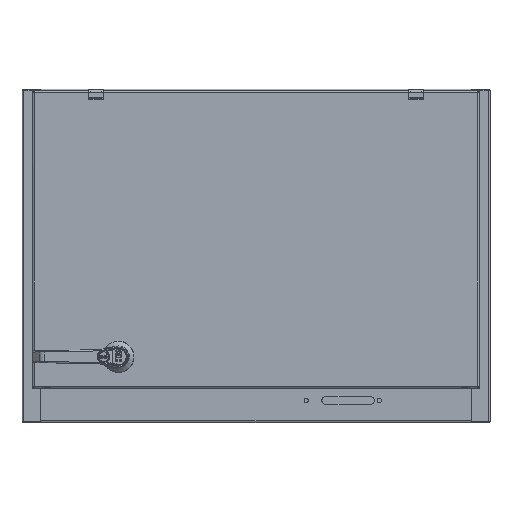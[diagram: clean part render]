
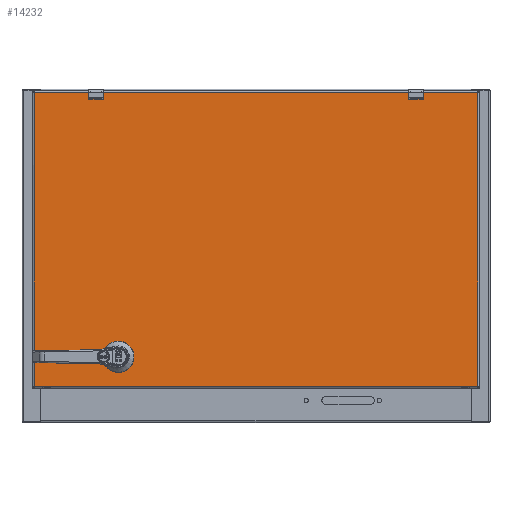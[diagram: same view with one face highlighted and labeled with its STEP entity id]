
A CAD part, top view. The second image highlights one B-rep face of the part: STEP entity #14232.
In plain terms, the highlighted planar face has unit normal (0, 0, 1).
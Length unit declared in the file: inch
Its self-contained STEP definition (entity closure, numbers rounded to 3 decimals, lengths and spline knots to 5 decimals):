
#10823=CARTESIAN_POINT('',(7.525,-9.915,0.));
#10824=DIRECTION('',(0.,0.,1.));
#10825=DIRECTION('',(-1.,0.,0.));
#10826=AXIS2_PLACEMENT_3D('',#10823,#10824,#10825);
#10831=CARTESIAN_POINT('',(7.525,-9.915,0.));
#10832=DIRECTION('',(0.,0.,1.));
#10833=DIRECTION('',(1.,0.,0.));
#10834=AXIS2_PLACEMENT_3D('',#10831,#10832,#10833);
#10839=DIRECTION('',(1.,0.,0.));
#10840=VECTOR('',#10839,0.39715);
#10841=CARTESIAN_POINT('',(7.32642,-8.429,0.));
#10842=LINE('',#10841,#10840);
#10846=CARTESIAN_POINT('',(7.525,-8.825,0.));
#10847=DIRECTION('',(0.,0.,1.));
#10848=DIRECTION('',(-0.448,0.894,0.));
#10849=AXIS2_PLACEMENT_3D('',#10846,#10847,#10848);
#10854=DIRECTION('',(0.,1.,0.));
#10855=VECTOR('',#10854,0.39715);
#10856=CARTESIAN_POINT('',(7.129,-9.02358,0.));
#10857=LINE('',#10856,#10855);
#10861=CARTESIAN_POINT('',(7.525,-8.825,0.));
#10862=DIRECTION('',(0.,0.,1.));
#10863=DIRECTION('',(-0.894,-0.448,0.));
#10864=AXIS2_PLACEMENT_3D('',#10861,#10862,#10863);
#10869=DIRECTION('',(-1.,0.,0.));
#10870=VECTOR('',#10869,0.39715);
#10871=CARTESIAN_POINT('',(7.72358,-9.221,0.));
#10872=LINE('',#10871,#10870);
#10876=CARTESIAN_POINT('',(7.525,-8.825,0.));
#10877=DIRECTION('',(0.,0.,1.));
#10878=DIRECTION('',(0.448,-0.894,0.));
#10879=AXIS2_PLACEMENT_3D('',#10876,#10877,#10878);
#10884=DIRECTION('',(0.,-1.,0.));
#10885=VECTOR('',#10884,0.39715);
#10886=CARTESIAN_POINT('',(7.921,-8.62642,0.));
#10887=LINE('',#10886,#10885);
#10891=CARTESIAN_POINT('',(7.525,-8.825,0.));
#10892=DIRECTION('',(0.,0.,1.));
#10893=DIRECTION('',(0.894,0.448,0.));
#10894=AXIS2_PLACEMENT_3D('',#10891,#10892,#10893);
#10899=DIRECTION('',(1.,0.,0.));
#10900=VECTOR('',#10899,0.3629);
#10901=CARTESIAN_POINT('',(-9.4205,-10.595,0.));
#10902=LINE('',#10901,#10900);
#10906=DIRECTION('',(0.,1.,0.));
#10907=VECTOR('',#10906,0.63);
#10908=CARTESIAN_POINT('',(-9.0276,-10.565,0.));
#10909=LINE('',#10908,#10907);
#10913=DIRECTION('',(1.,0.,0.));
#10914=VECTOR('',#10913,0.3629);
#10915=CARTESIAN_POINT('',(-9.4205,-9.905,0.));
#10916=LINE('',#10915,#10914);
#10920=DIRECTION('',(1.,0.,0.));
#10921=VECTOR('',#10920,0.3629);
#10922=CARTESIAN_POINT('',(-9.4205,9.905,0.));
#10923=LINE('',#10922,#10921);
#10927=DIRECTION('',(0.,1.,0.));
#10928=VECTOR('',#10927,0.63);
#10929=CARTESIAN_POINT('',(-9.0276,9.935,0.));
#10930=LINE('',#10929,#10928);
#10934=DIRECTION('',(1.,0.,0.));
#10935=VECTOR('',#10934,0.3629);
#10936=CARTESIAN_POINT('',(-9.4205,10.595,0.));
#10937=LINE('',#10936,#10935);
#11510=DIRECTION('',(0.,-1.,0.));
#11511=VECTOR('',#11510,28.416);
#11512=CARTESIAN_POINT('',(9.4205,14.208,0.));
#11513=LINE('',#11512,#11511);
#11584=DIRECTION('',(1.,0.,0.));
#11585=VECTOR('',#11584,18.841);
#11586=CARTESIAN_POINT('',(-9.4205,14.208,0.));
#11587=LINE('',#11586,#11585);
#11716=DIRECTION('',(0.,1.,0.));
#11717=VECTOR('',#11716,19.81);
#11718=CARTESIAN_POINT('',(-9.4205,-9.905,0.));
#11719=LINE('',#11718,#11717);
#11723=CARTESIAN_POINT('',(-9.4205,14.208,0.));
#11762=DIRECTION('',(0.,1.,0.));
#11763=VECTOR('',#11762,3.613);
#11764=CARTESIAN_POINT('',(-9.4205,10.595,0.));
#11765=LINE('',#11764,#11763);
#11838=DIRECTION('',(0.,1.,0.));
#11839=VECTOR('',#11838,3.613);
#11840=CARTESIAN_POINT('',(-9.4205,-14.208,0.));
#11841=LINE('',#11840,#11839);
#11859=CARTESIAN_POINT('',(-9.0576,-9.935,0.));
#11860=DIRECTION('',(0.,0.,-1.));
#11861=DIRECTION('',(0.,1.,0.));
#11862=AXIS2_PLACEMENT_3D('',#11859,#11860,#11861);
#11889=CARTESIAN_POINT('',(-9.0576,-10.565,0.));
#11890=DIRECTION('',(0.,0.,-1.));
#11891=DIRECTION('',(1.,0.,0.));
#11892=AXIS2_PLACEMENT_3D('',#11889,#11890,#11891);
#12231=DIRECTION('',(-1.,0.,0.));
#12232=VECTOR('',#12231,18.841);
#12233=CARTESIAN_POINT('',(9.4205,-14.208,0.));
#12234=LINE('',#12233,#12232);
#12492=CARTESIAN_POINT('',(-9.0576,9.935,0.));
#12493=DIRECTION('',(0.,0.,-1.));
#12494=DIRECTION('',(1.,0.,0.));
#12495=AXIS2_PLACEMENT_3D('',#12492,#12493,#12494);
#12522=CARTESIAN_POINT('',(-9.0576,10.565,0.));
#12523=DIRECTION('',(0.,0.,-1.));
#12524=DIRECTION('',(0.,1.,0.));
#12525=AXIS2_PLACEMENT_3D('',#12522,#12523,#12524);
#13747=CARTESIAN_POINT('',(9.4205,14.208,0.));
#13748=CARTESIAN_POINT('',(9.4205,-14.208,0.));
#13749=VERTEX_POINT('',#13747);
#13750=VERTEX_POINT('',#13748);
#13875=CARTESIAN_POINT('',(7.4,-9.915,0.));
#13876=CARTESIAN_POINT('',(7.65,-9.915,0.));
#13877=VERTEX_POINT('',#13875);
#13878=VERTEX_POINT('',#13876);
#13879=CARTESIAN_POINT('',(7.32642,-8.429,0.));
#13880=CARTESIAN_POINT('',(7.72358,-8.429,0.));
#13881=VERTEX_POINT('',#13879);
#13882=VERTEX_POINT('',#13880);
#13883=CARTESIAN_POINT('',(7.921,-8.62642,0.));
#13884=VERTEX_POINT('',#13883);
#13885=CARTESIAN_POINT('',(7.921,-9.02358,0.));
#13886=VERTEX_POINT('',#13885);
#13887=CARTESIAN_POINT('',(7.72358,-9.221,0.));
#13888=VERTEX_POINT('',#13887);
#13889=CARTESIAN_POINT('',(7.32642,-9.221,0.));
#13890=VERTEX_POINT('',#13889);
#13891=CARTESIAN_POINT('',(7.129,-9.02358,0.));
#13892=VERTEX_POINT('',#13891);
#13893=CARTESIAN_POINT('',(7.129,-8.62642,0.));
#13894=VERTEX_POINT('',#13893);
#13945=VERTEX_POINT('',#11723);
#13950=CARTESIAN_POINT('',(-9.4205,-14.208,0.));
#13952=VERTEX_POINT('',#13950);
#14073=CARTESIAN_POINT('',(-9.4205,10.595,0.));
#14075=VERTEX_POINT('',#14073);
#14077=CARTESIAN_POINT('',(-9.4205,9.905,0.));
#14079=VERTEX_POINT('',#14077);
#14089=CARTESIAN_POINT('',(-9.4205,-9.905,0.));
#14091=VERTEX_POINT('',#14089);
#14093=CARTESIAN_POINT('',(-9.4205,-10.595,0.));
#14095=VERTEX_POINT('',#14093);
#14105=CARTESIAN_POINT('',(-9.0576,10.595,0.));
#14107=VERTEX_POINT('',#14105);
#14109=CARTESIAN_POINT('',(-9.0276,10.565,0.));
#14111=VERTEX_POINT('',#14109);
#14113=CARTESIAN_POINT('',(-9.0276,9.935,0.));
#14115=VERTEX_POINT('',#14113);
#14117=CARTESIAN_POINT('',(-9.0576,9.905,0.));
#14119=VERTEX_POINT('',#14117);
#14137=CARTESIAN_POINT('',(-9.0576,-9.905,0.));
#14139=VERTEX_POINT('',#14137);
#14141=CARTESIAN_POINT('',(-9.0276,-9.935,0.));
#14143=VERTEX_POINT('',#14141);
#14145=CARTESIAN_POINT('',(-9.0276,-10.565,0.));
#14147=VERTEX_POINT('',#14145);
#14149=CARTESIAN_POINT('',(-9.0576,-10.595,0.));
#14151=VERTEX_POINT('',#14149);
#14169=CARTESIAN_POINT('',(0.,0.,0.));
#14170=DIRECTION('',(0.,0.,-1.));
#14171=DIRECTION('',(1.,0.,0.));
#14172=AXIS2_PLACEMENT_3D('',#14169,#14170,#14171);
#14173=PLANE('',#14172);
#14175=ORIENTED_EDGE('',*,*,#14174,.T.);
#14177=ORIENTED_EDGE('',*,*,#14176,.T.);
#14179=ORIENTED_EDGE('',*,*,#14178,.T.);
#14181=ORIENTED_EDGE('',*,*,#14180,.F.);
#14183=ORIENTED_EDGE('',*,*,#14182,.T.);
#14185=ORIENTED_EDGE('',*,*,#14184,.F.);
#14187=ORIENTED_EDGE('',*,*,#14186,.F.);
#14189=ORIENTED_EDGE('',*,*,#14188,.T.);
#14191=ORIENTED_EDGE('',*,*,#14190,.T.);
#14193=ORIENTED_EDGE('',*,*,#14192,.F.);
#14195=ORIENTED_EDGE('',*,*,#14194,.T.);
#14197=ORIENTED_EDGE('',*,*,#14196,.F.);
#14199=ORIENTED_EDGE('',*,*,#14198,.F.);
#14201=ORIENTED_EDGE('',*,*,#14200,.T.);
#14203=ORIENTED_EDGE('',*,*,#14202,.T.);
#14205=ORIENTED_EDGE('',*,*,#14204,.T.);
#14206=EDGE_LOOP('',(#14175,#14177,#14179,#14181,#14183,#14185,#14187,#14189,
#14191,#14193,#14195,#14197,#14199,#14201,#14203,#14205));
#14207=FACE_OUTER_BOUND('',#14206,.F.);
#14209=ORIENTED_EDGE('',*,*,#14208,.F.);
#14211=ORIENTED_EDGE('',*,*,#14210,.T.);
#14213=ORIENTED_EDGE('',*,*,#14212,.F.);
#14215=ORIENTED_EDGE('',*,*,#14214,.T.);
#14217=ORIENTED_EDGE('',*,*,#14216,.F.);
#14219=ORIENTED_EDGE('',*,*,#14218,.T.);
#14221=ORIENTED_EDGE('',*,*,#14220,.F.);
#14223=ORIENTED_EDGE('',*,*,#14222,.T.);
#14224=EDGE_LOOP('',(#14209,#14211,#14213,#14215,#14217,#14219,#14221,#14223));
#14225=FACE_BOUND('',#14224,.F.);
#14227=ORIENTED_EDGE('',*,*,#14226,.T.);
#14229=ORIENTED_EDGE('',*,*,#14228,.T.);
#14230=EDGE_LOOP('',(#14227,#14229));
#14231=FACE_BOUND('',#14230,.F.);
#10827=CIRCLE('',#10826,0.125);
#10835=CIRCLE('',#10834,0.125);
#10850=CIRCLE('',#10849,0.443);
#10865=CIRCLE('',#10864,0.443);
#10880=CIRCLE('',#10879,0.443);
#10895=CIRCLE('',#10894,0.443);
#11863=CIRCLE('',#11862,0.03);
#11893=CIRCLE('',#11892,0.03);
#12496=CIRCLE('',#12495,0.03);
#12526=CIRCLE('',#12525,0.03);
#14174=EDGE_CURVE('',#13750,#13952,#12234,.T.);
#14176=EDGE_CURVE('',#13952,#14095,#11841,.T.);
#14178=EDGE_CURVE('',#14095,#14151,#10902,.T.);
#14180=EDGE_CURVE('',#14147,#14151,#11893,.T.);
#14182=EDGE_CURVE('',#14147,#14143,#10909,.T.);
#14184=EDGE_CURVE('',#14139,#14143,#11863,.T.);
#14186=EDGE_CURVE('',#14091,#14139,#10916,.T.);
#14188=EDGE_CURVE('',#14091,#14079,#11719,.T.);
#14190=EDGE_CURVE('',#14079,#14119,#10923,.T.);
#14192=EDGE_CURVE('',#14115,#14119,#12496,.T.);
#14194=EDGE_CURVE('',#14115,#14111,#10930,.T.);
#14196=EDGE_CURVE('',#14107,#14111,#12526,.T.);
#14198=EDGE_CURVE('',#14075,#14107,#10937,.T.);
#14200=EDGE_CURVE('',#14075,#13945,#11765,.T.);
#14202=EDGE_CURVE('',#13945,#13749,#11587,.T.);
#14204=EDGE_CURVE('',#13749,#13750,#11513,.T.);
#14208=EDGE_CURVE('',#13881,#13882,#10842,.T.);
#14210=EDGE_CURVE('',#13881,#13894,#10850,.T.);
#14212=EDGE_CURVE('',#13892,#13894,#10857,.T.);
#14214=EDGE_CURVE('',#13892,#13890,#10865,.T.);
#14216=EDGE_CURVE('',#13888,#13890,#10872,.T.);
#14218=EDGE_CURVE('',#13888,#13886,#10880,.T.);
#14220=EDGE_CURVE('',#13884,#13886,#10887,.T.);
#14222=EDGE_CURVE('',#13884,#13882,#10895,.T.);
#14226=EDGE_CURVE('',#13877,#13878,#10827,.T.);
#14228=EDGE_CURVE('',#13878,#13877,#10835,.T.);
#14232=ADVANCED_FACE('',(#14207,#14225,#14231),#14173,.F.);
